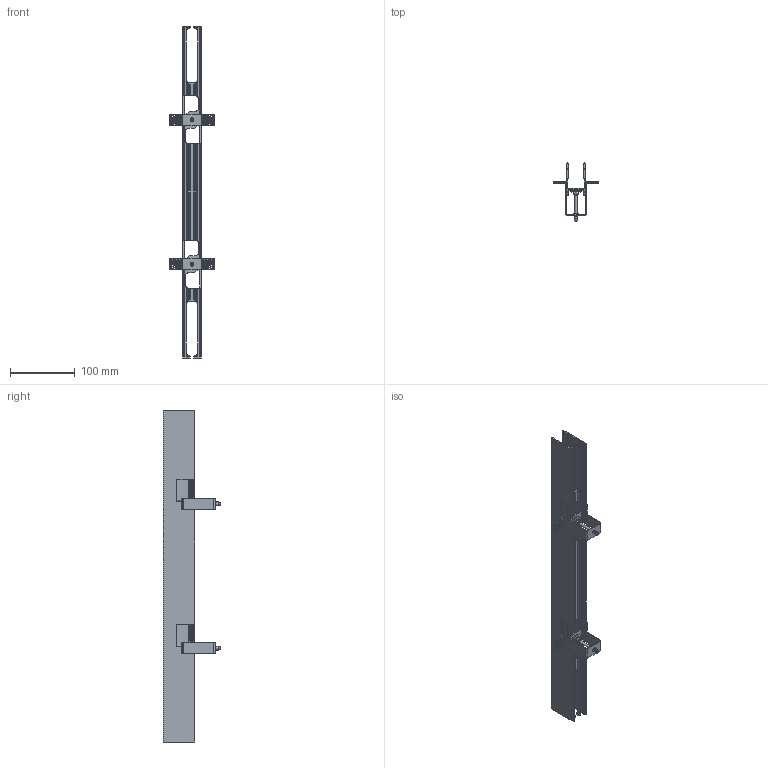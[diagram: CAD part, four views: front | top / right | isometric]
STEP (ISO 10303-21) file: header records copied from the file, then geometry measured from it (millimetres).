
FILE_DESCRIPTION(/* description */ ('Unknown'),/* implementation_level */ '2;1');
FILE_NAME(/* name */ '98367',/* time_stamp */ '2023-02-07T05:57:31-05:00',/* author */ ('Unknown'),/* organization */ ('Unknown'),/* preprocessor_version */ 'ST-DEVELOPER v18.1',/* originating_system */ 'Solid Edge',/* authorisation */ 'Unknown');
FILE_SCHEMA (('AUTOMOTIVE_DESIGN {1 0 10303 214 3 1 1}'));
Length unit declared in the file: millimetre
Products named in the file (9): CONTROCASSA_PER _CARTONGESSO; LED-PRO860; LED-VIT061; LED-RON101; LED-RON006; LED-DAD026; STAFFA+INSERTO; LED-STA310; INSERTO
Assembly tree (13 placements, depth 3):
  CONTROCASSA_PER _CARTONGESSO
    LED-PRO860
    LED-VIT061  x2
    LED-RON101  x2
    LED-RON006  x2
    LED-DAD026  x2
    STAFFA+INSERTO  x2
      LED-STA310
      INSERTO
Bounding box: 69.5 x 89 x 513 mm (x, y, z)
Volume: 109523.6 mm3; surface area: 134770.2 mm2
Topology: 13 solids, 13 shells, 532 faces, 1562 edges, 1056 vertices
Faces by surface type: cylinder 318, plane 180, cone 22, torus 12
Full cylindrical faces by diameter (mm): 2.8 x108, 3.422 x4, 4 x2, 4.2 x2, 5 x4, 5.9 x2, 6 x2, 6.4 x2, 8 x2, 8.8 x2, 10 x2, 18 x2
Entity records: 14004 total; most frequent: CARTESIAN_POINT 2750, DIRECTION 2242, ORIENTED_EDGE 2164, EDGE_CURVE 1082, AXIS2_PLACEMENT_3D 864, VERTEX_POINT 772, EDGE_LOOP 606, FACE_BOUND 606
